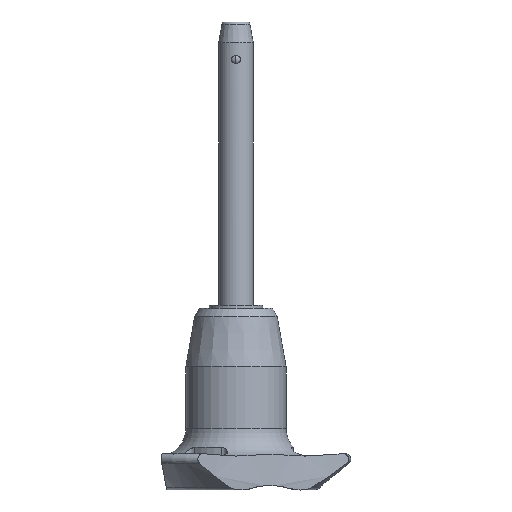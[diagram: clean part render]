
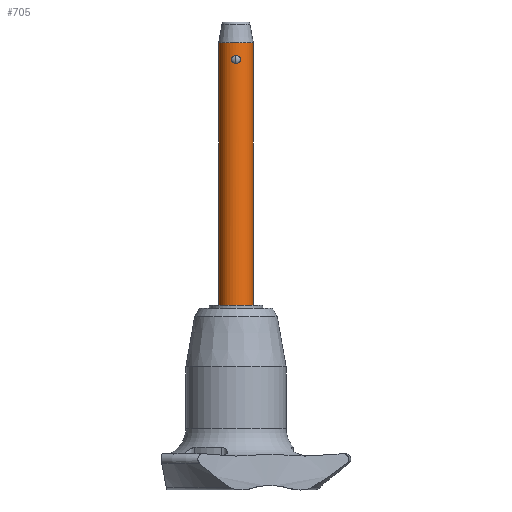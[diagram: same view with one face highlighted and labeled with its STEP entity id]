
A CAD part, front view. The second image highlights one B-rep face of the part: STEP entity #705.
In plain terms, the highlighted cylindrical face has radius 2.5 mm (diameter 5 mm), a partial arc.
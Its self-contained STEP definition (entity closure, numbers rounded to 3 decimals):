
#27 = B_SPLINE_CURVE_WITH_KNOTS ( 'NONE', 3,
 ( #132, #2570, #107, #1170, #504, #737, #1983, #2615, #1779, #922, #2408, #1548, #1765, #519 ),
 .UNSPECIFIED., .F., .F.,
 ( 4, 2, 2, 2, 2, 2, 4 ),
 ( 0., 0., 0.001, 0.001, 0.001, 0.001, 0.002 ),
 .UNSPECIFIED. ) ;
#101 = B_SPLINE_CURVE_WITH_KNOTS ( 'NONE', 3,
 ( #2083, #2291, #462, #1876, #2537, #2111, #846, #672, #258, #1919, #1715, #2305, #1669, #403 ),
 .UNSPECIFIED., .F., .F.,
 ( 4, 2, 2, 2, 2, 2, 4 ),
 ( 0.002, 0.002, 0.003, 0.003, 0.003, 0.003, 0.004 ),
 .UNSPECIFIED. ) ;
#107 = CARTESIAN_POINT ( 'NONE',  ( -0.324, -2.482, 1.108 ) ) ;
#132 = CARTESIAN_POINT ( 'NONE',  ( 0., -2.5, 1.162 ) ) ;
#171 = VERTEX_POINT ( 'NONE', #2546 ) ;
#258 = CARTESIAN_POINT ( 'NONE',  ( 0.633, -2.419, 0.742 ) ) ;
#305 = DIRECTION ( 'NONE',  ( 0., 0., 1. ) ) ;
#403 = CARTESIAN_POINT ( 'NONE',  ( 0., -2.5, 1.162 ) ) ;
#462 = CARTESIAN_POINT ( 'NONE',  ( 0.326, -2.482, 0.055 ) ) ;
#485 = VERTEX_POINT ( 'NONE', #1082 ) ;
#504 = CARTESIAN_POINT ( 'NONE',  ( -0.561, -2.436, 0.889 ) ) ;
#514 = LINE ( 'NONE', #1740, #726 ) ;
#519 = CARTESIAN_POINT ( 'NONE',  ( 0., -2.5, 0. ) ) ;
#539 = DIRECTION ( 'NONE',  ( 0., 0., 1. ) ) ;
#582 = VERTEX_POINT ( 'NONE', #1461 ) ;
#672 = CARTESIAN_POINT ( 'NONE',  ( 0.652, -2.413, 0.66 ) ) ;
#705 = ADVANCED_FACE ( 'NONE', ( #1924, #1720 ), #2558, .T. ) ;
#726 = VECTOR ( 'NONE', #305, 1000. ) ;
#737 = CARTESIAN_POINT ( 'NONE',  ( -0.632, -2.419, 0.744 ) ) ;
#827 = AXIS2_PLACEMENT_3D ( 'NONE', #1210, #2036, #994 ) ;
#846 = CARTESIAN_POINT ( 'NONE',  ( 0.652, -2.414, 0.497 ) ) ;
#887 = ORIENTED_EDGE ( 'NONE', *, *, #1341, .F. ) ;
#922 = CARTESIAN_POINT ( 'NONE',  ( -0.562, -2.436, 0.274 ) ) ;
#930 = LINE ( 'NONE', #1753, #1359 ) ;
#977 = ORIENTED_EDGE ( 'NONE', *, *, #1665, .F. ) ;
#984 = DIRECTION ( 'NONE',  ( 0., 0., -1. ) ) ;
#994 = DIRECTION ( 'NONE',  ( 1., 0., 0. ) ) ;
#1082 = CARTESIAN_POINT ( 'NONE',  ( 2.5, 0., 3. ) ) ;
#1105 = EDGE_CURVE ( 'NONE', #582, #485, #930, .T. ) ;
#1170 = CARTESIAN_POINT ( 'NONE',  ( -0.51, -2.448, 0.953 ) ) ;
#1210 = CARTESIAN_POINT ( 'NONE',  ( 0., 0., -35. ) ) ;
#1245 = CARTESIAN_POINT ( 'NONE',  ( 0., 0., 3. ) ) ;
#1332 = CIRCLE ( 'NONE', #1801, 2.5 ) ;
#1341 = EDGE_CURVE ( 'NONE', #1624, #2663, #514, .T. ) ;
#1351 = CARTESIAN_POINT ( 'NONE',  ( 0., 0., -35. ) ) ;
#1359 = VECTOR ( 'NONE', #539, 1000. ) ;
#1364 = ORIENTED_EDGE ( 'NONE', *, *, #1105, .T. ) ;
#1372 = ORIENTED_EDGE ( 'NONE', *, *, #2535, .T. ) ;
#1437 = EDGE_CURVE ( 'NONE', #582, #1624, #1989, .T. ) ;
#1461 = CARTESIAN_POINT ( 'NONE',  ( 2.5, 0., -35. ) ) ;
#1509 = CARTESIAN_POINT ( 'NONE',  ( -2.5, 0., -35. ) ) ;
#1548 = CARTESIAN_POINT ( 'NONE',  ( -0.326, -2.482, 0.054 ) ) ;
#1624 = VERTEX_POINT ( 'NONE', #1509 ) ;
#1653 = ORIENTED_EDGE ( 'NONE', *, *, #2445, .F. ) ;
#1665 = EDGE_CURVE ( 'NONE', #1887, #171, #101, .T. ) ;
#1669 = CARTESIAN_POINT ( 'NONE',  ( 0.164, -2.5, 1.162 ) ) ;
#1715 = CARTESIAN_POINT ( 'NONE',  ( 0.511, -2.448, 0.952 ) ) ;
#1720 = FACE_BOUND ( 'NONE', #2331, .T. ) ;
#1730 = AXIS2_PLACEMENT_3D ( 'NONE', #1351, #1912, #1825 ) ;
#1740 = CARTESIAN_POINT ( 'NONE',  ( -2.5, 0., -35. ) ) ;
#1753 = CARTESIAN_POINT ( 'NONE',  ( 2.5, 0., -35. ) ) ;
#1765 = CARTESIAN_POINT ( 'NONE',  ( -0.162, -2.5, 0. ) ) ;
#1768 = CARTESIAN_POINT ( 'NONE',  ( -2.5, 0., 3. ) ) ;
#1779 = CARTESIAN_POINT ( 'NONE',  ( -0.633, -2.419, 0.42 ) ) ;
#1801 = AXIS2_PLACEMENT_3D ( 'NONE', #1245, #984, #2644 ) ;
#1825 = DIRECTION ( 'NONE',  ( 1., 0., 0. ) ) ;
#1876 = CARTESIAN_POINT ( 'NONE',  ( 0.509, -2.448, 0.208 ) ) ;
#1887 = VERTEX_POINT ( 'NONE', #1931 ) ;
#1912 = DIRECTION ( 'NONE',  ( 0., 0., 1. ) ) ;
#1919 = CARTESIAN_POINT ( 'NONE',  ( 0.562, -2.436, 0.887 ) ) ;
#1924 = FACE_OUTER_BOUND ( 'NONE', #2584, .T. ) ;
#1931 = CARTESIAN_POINT ( 'NONE',  ( 0., -2.5, 0. ) ) ;
#1983 = CARTESIAN_POINT ( 'NONE',  ( -0.652, -2.414, 0.663 ) ) ;
#1989 = CIRCLE ( 'NONE', #827, 2.5 ) ;
#2036 = DIRECTION ( 'NONE',  ( 0., 0., -1. ) ) ;
#2083 = CARTESIAN_POINT ( 'NONE',  ( 0., -2.5, 0. ) ) ;
#2111 = CARTESIAN_POINT ( 'NONE',  ( 0.632, -2.419, 0.416 ) ) ;
#2291 = CARTESIAN_POINT ( 'NONE',  ( 0.162, -2.5, 0. ) ) ;
#2305 = CARTESIAN_POINT ( 'NONE',  ( 0.327, -2.482, 1.107 ) ) ;
#2331 = EDGE_LOOP ( 'NONE', ( #1653, #977 ) ) ;
#2408 = CARTESIAN_POINT ( 'NONE',  ( -0.511, -2.448, 0.21 ) ) ;
#2445 = EDGE_CURVE ( 'NONE', #171, #1887, #27, .T. ) ;
#2535 = EDGE_CURVE ( 'NONE', #485, #2663, #1332, .T. ) ;
#2537 = CARTESIAN_POINT ( 'NONE',  ( 0.561, -2.437, 0.273 ) ) ;
#2546 = CARTESIAN_POINT ( 'NONE',  ( 0., -2.5, 1.162 ) ) ;
#2558 = CYLINDRICAL_SURFACE ( 'NONE', #1730, 2.5 ) ;
#2570 = CARTESIAN_POINT ( 'NONE',  ( -0.164, -2.5, 1.162 ) ) ;
#2584 = EDGE_LOOP ( 'NONE', ( #887, #2655, #1364, #1372 ) ) ;
#2615 = CARTESIAN_POINT ( 'NONE',  ( -0.652, -2.413, 0.501 ) ) ;
#2644 = DIRECTION ( 'NONE',  ( 1., 0., 0. ) ) ;
#2655 = ORIENTED_EDGE ( 'NONE', *, *, #1437, .F. ) ;
#2663 = VERTEX_POINT ( 'NONE', #1768 ) ;
